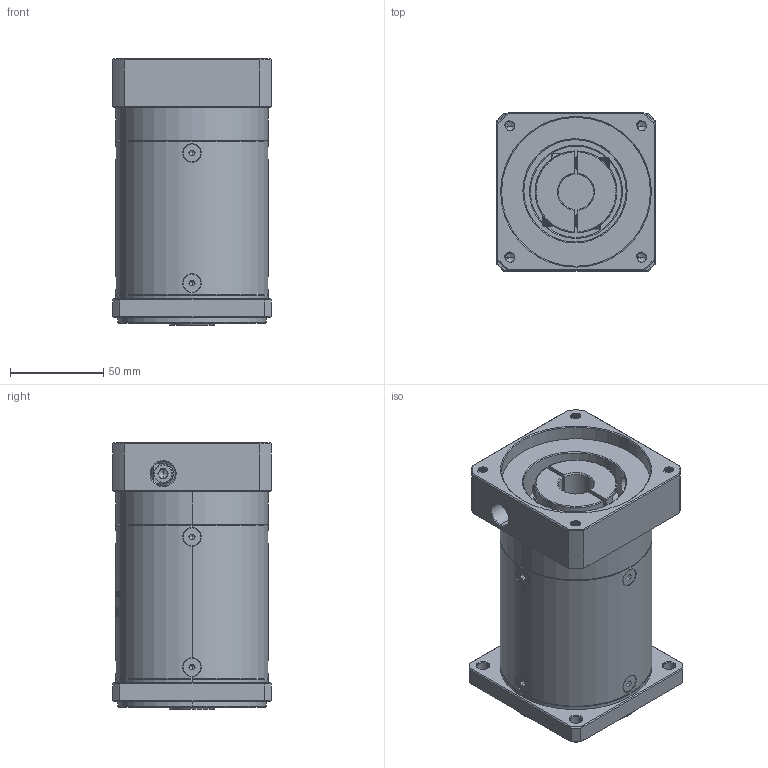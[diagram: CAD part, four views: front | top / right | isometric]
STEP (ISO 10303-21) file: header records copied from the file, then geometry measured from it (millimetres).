
FILE_DESCRIPTION (( 'STEP AP214' ), '1' );
FILE_NAME ('ZF80-K15-L3-19-80-100-M6.step', '2022-09-16T05:27:06', ( '' ), ( 'Microsoft' ), 'SwSTEP 2.0', 'SolidWorks 2016', '' );
FILE_SCHEMA (( 'AUTOMOTIVE_DESIGN' ));
Length unit declared in the file: millimetre
Products named in the file (1): ZF80-K15-L3-19-80-100-M6
Bounding box: 85 x 85 x 143 mm (x, y, z)
Volume: 724260.9 mm3; surface area: 97371.3 mm2
Topology: 13 solids, 13 shells, 1930 faces, 4990 edges, 3153 vertices
Faces by surface type: plane 889, cylinder 381, cone 333, bspline 310, torus 17
Entity records: 101503 total; most frequent: CARTESIAN_POINT 36639, ORIENTED_EDGE 9924, DIRECTION 7863, EDGE_CURVE 4962, VERTEX_POINT 3153, VECTOR 2719, LINE 2719, AXIS2_PLACEMENT_3D 2572
